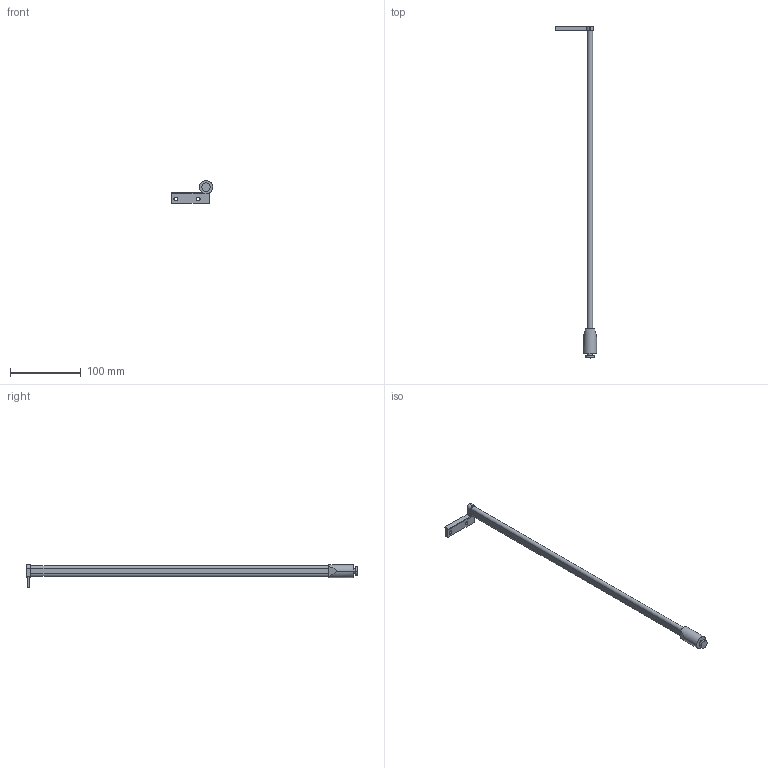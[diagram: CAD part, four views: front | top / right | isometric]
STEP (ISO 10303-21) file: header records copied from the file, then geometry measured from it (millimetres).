
FILE_DESCRIPTION (( 'STEP AP214' ), '1' );
FILE_NAME ('DWD-XP_Reling-Haengeregister_NL475_rechts.step', '2010-10-06T11:19:36', ( 'grass' ), ( '' ), 'SwSTEP 2.0', 'SolidWorks 2010', '' );
FILE_SCHEMA (( 'AUTOMOTIVE_DESIGN' ));
Length unit declared in the file: millimetre
Products named in the file (1): DWD-XP_Reling-Haengeregister_NL475_rechts
Bounding box: 58.1 x 469.3 x 32.15 mm (x, y, z)
Volume: 52961.3 mm3; surface area: 21683.7 mm2
Topology: 1 solids, 1 shells, 34 faces, 84 edges, 56 vertices
Faces by surface type: plane 20, cylinder 14
Entity records: 1058 total; most frequent: CARTESIAN_POINT 187, DIRECTION 178, ORIENTED_EDGE 168, EDGE_CURVE 84, AXIS2_PLACEMENT_3D 63, VERTEX_POINT 56, VECTOR 52, LINE 52
